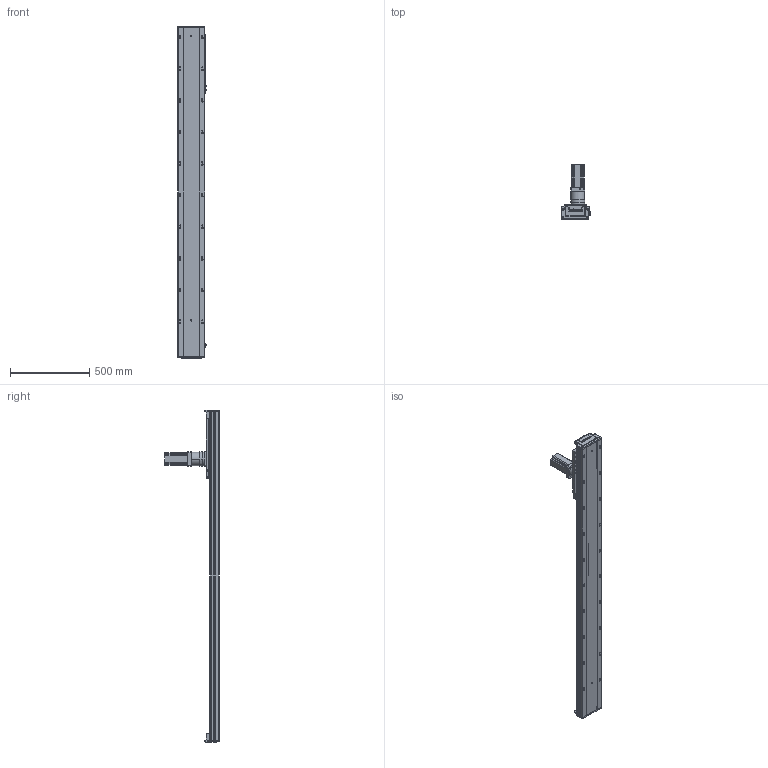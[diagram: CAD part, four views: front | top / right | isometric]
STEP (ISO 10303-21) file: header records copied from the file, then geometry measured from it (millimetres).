
FILE_DESCRIPTION (( 'STEP AP203' ), '1' );
FILE_NAME ('RY170-C-1000-UK.SLDASM_1600.step', '2021-03-03T00:46:46', ( '盈信电脑' ), ( '东莞市道滘镇水果街19号' ), 'SwSTEP 2.0', 'SolidWorks 2012', '' );
FILE_SCHEMA (( 'CONFIG_CONTROL_DESIGN' ));
Products named in the file (13): RY170-喘沭賑輸; 左旋斜齿齿轮_M2_22齿_内孔20; RY170-C-1000-UK.SLDASM_1600; TF080等撰; 怢湛750W萇儂ㄗ80遺ㄘ; RY170-喘沭滅袉蝶輸; RY170-喘謫萇儂覃誹啣; RY170外置感应片(200共用）; RY170綴裔啣ㄗ蜊秶ㄘ; 覜茼ん672; RY170-1000齿条模组型材底座_1600; 絳寢賑輸EGH20CA; RY170-1000-喘沭耀郪絳寢EGH20CA_1600
Assembly tree (22 placements, depth 2):
  RY170-C-1000-UK.SLDASM_1600
    RY170-1000齿条模组型材底座_1600
    絳寢賑輸EGH20CA  x6
    RY170-1000-喘沭耀郪絳寢EGH20CA_1600  x2
    RY170綴裔啣ㄗ蜊秶ㄘ  x2
    覜茼ん672  x3
    RY170外置感应片(200共用）
    RY170-喘謫萇儂覃誹啣
    怢湛750W萇儂ㄗ80遺ㄘ
    RY170-喘沭滅袉蝶輸  x2
    TF080等撰
    左旋斜齿齿轮_M2_22齿_内孔20
    RY170-喘沭賑輸
Bounding box: 188.7 x 343.5 x 2100 mm (x, y, z)
Volume: 11939950.3 mm3; surface area: 2928112.5 mm2
Topology: 24 solids, 24 shells, 4136 faces, 11470 edges, 7367 vertices
Faces by surface type: plane 2044, cylinder 1744, cone 294, bspline 50, torus 4
Entity records: 90578 total; most frequent: CARTESIAN_POINT 20624, ORIENTED_EDGE 14490, DIRECTION 14174, EDGE_CURVE 7245, AXIS2_PLACEMENT_3D 5194, VERTEX_POINT 4715, LINE 3786, VECTOR 3786
